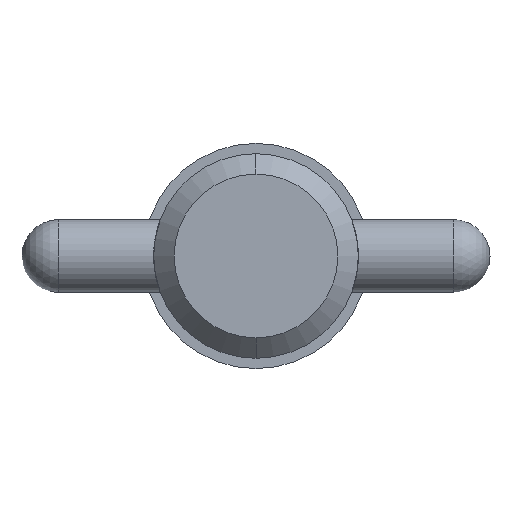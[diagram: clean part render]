
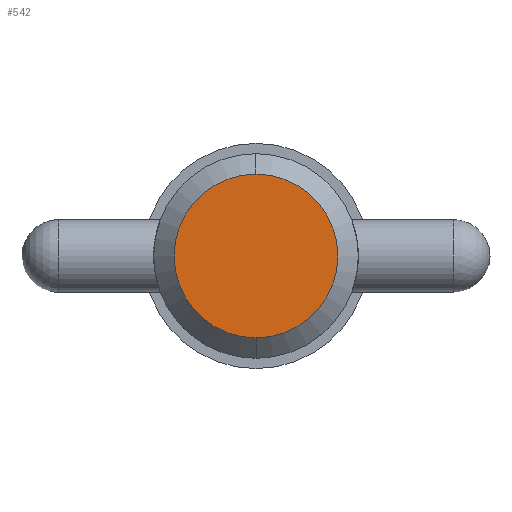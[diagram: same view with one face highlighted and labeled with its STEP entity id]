
A CAD part, left-side view. The second image highlights one B-rep face of the part: STEP entity #542.
In plain terms, the highlighted planar face has unit normal (-1, 0, 0).
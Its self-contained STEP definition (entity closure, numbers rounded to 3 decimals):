
#17 = DIRECTION ( 'NONE',  ( 0., 0., 1. ) ) ;
#73 = ORIENTED_EDGE ( 'NONE', *, *, #648, .F. ) ;
#112 = CARTESIAN_POINT ( 'NONE',  ( 0., 0., -4.444 ) ) ;
#145 = CARTESIAN_POINT ( 'NONE',  ( 0., 0., 0. ) ) ;
#196 = CIRCLE ( 'NONE', #724, 4.444 ) ;
#219 = VERTEX_POINT ( 'NONE', #473 ) ;
#225 = DIRECTION ( 'NONE',  ( 1., 0., 0. ) ) ;
#291 = DIRECTION ( 'NONE',  ( 0., 0., -1. ) ) ;
#316 = CARTESIAN_POINT ( 'NONE',  ( 0., 0., 0. ) ) ;
#330 = DIRECTION ( 'NONE',  ( -1., 0., 0. ) ) ;
#367 = EDGE_LOOP ( 'NONE', ( #73, #957 ) ) ;
#369 = VERTEX_POINT ( 'NONE', #112 ) ;
#382 = DIRECTION ( 'NONE',  ( 1., 0., 0. ) ) ;
#473 = CARTESIAN_POINT ( 'NONE',  ( 0., 0., 4.444 ) ) ;
#490 = AXIS2_PLACEMENT_3D ( 'NONE', #145, #382, #291 ) ;
#495 = DIRECTION ( 'NONE',  ( 0., 0., -1. ) ) ;
#514 = EDGE_CURVE ( 'NONE', #219, #369, #757, .T. ) ;
#542 = ADVANCED_FACE ( 'NONE', ( #887 ), #552, .T. ) ;
#552 = PLANE ( 'NONE',  #687 ) ;
#648 = EDGE_CURVE ( 'NONE', #369, #219, #196, .T. ) ;
#687 = AXIS2_PLACEMENT_3D ( 'NONE', #316, #330, #17 ) ;
#718 = CARTESIAN_POINT ( 'NONE',  ( 0., 0., 0. ) ) ;
#724 = AXIS2_PLACEMENT_3D ( 'NONE', #718, #225, #495 ) ;
#757 = CIRCLE ( 'NONE', #490, 4.444 ) ;
#887 = FACE_OUTER_BOUND ( 'NONE', #367, .T. ) ;
#957 = ORIENTED_EDGE ( 'NONE', *, *, #514, .F. ) ;
